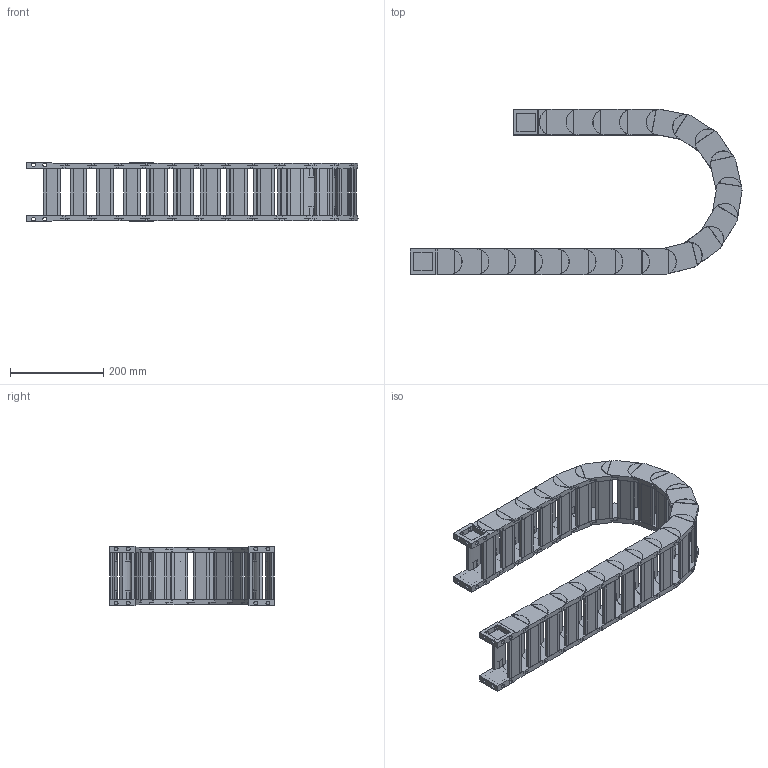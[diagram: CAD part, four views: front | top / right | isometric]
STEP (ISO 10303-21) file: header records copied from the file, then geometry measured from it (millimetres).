
FILE_DESCRIPTION((''),'2;1');
FILE_NAME('HD35-R150-ZPT_ASM','2022-06-17T11:41:07',('admin'),(''),'CREO PARAMETRIC BY PTC INC, 2021164','CREO PARAMETRIC BY PTC INC, 2021164','');
FILE_SCHEMA(('CONFIG_CONTROL_DESIGN','GEOMETRIC_VALIDATION_PROPERTIES_MIM'));
Length unit declared in the file: millimetre
Products named in the file (6): HD35; 35-600001; HD35_ASM; 35-TL_11; 35-WL; HD35-R150-ZPT_ASM
Assembly tree (26 placements, depth 3):
  HD35-R150-ZPT_ASM
    HD35_ASM  x20
      HD35
      35-600001
    35-TL_11
    35-WL
    35-600001  x2
Bounding box: 713.07 x 354.77 x 128.3 mm (x, y, z)
Volume: 3055034.6 mm3; surface area: 1095118.5 mm2
Topology: 88 solids, 88 shells, 1642 faces, 4370 edges, 2996 vertices
Faces by surface type: plane 1118, cylinder 524
Entity records: 9431 total; most frequent: DIRECTION 1426, CARTESIAN_POINT 1416, ORIENTED_EDGE 1300, EDGE_CURVE 650, AXIS2_PLACEMENT_3D 508, VERTEX_POINT 440, VECTOR 410, LINE 410
